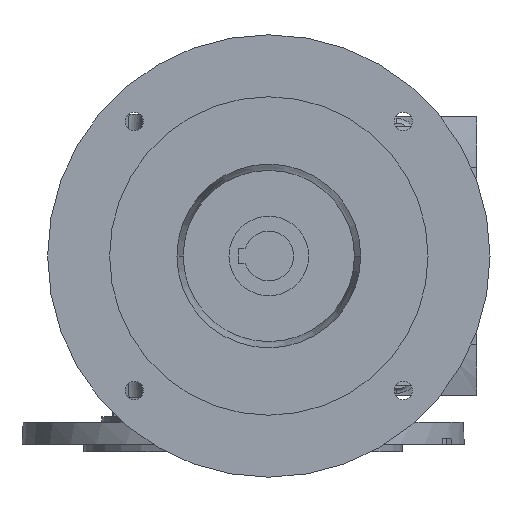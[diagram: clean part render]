
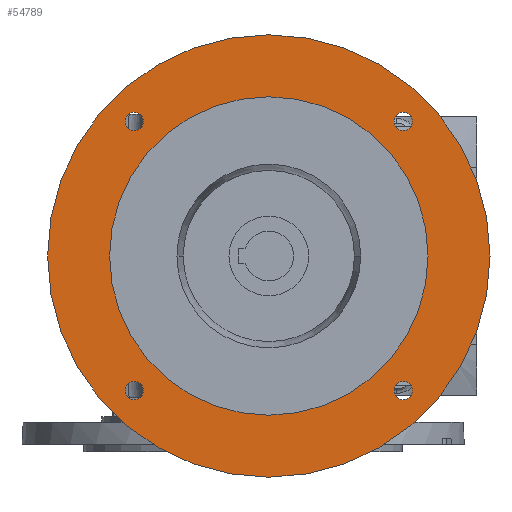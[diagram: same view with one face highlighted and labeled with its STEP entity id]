
A CAD part, left-side view. The second image highlights one B-rep face of the part: STEP entity #54789.
In plain terms, the highlighted planar face has unit normal (-1, 0, 0).
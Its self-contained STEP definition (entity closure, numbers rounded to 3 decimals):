
#54248=CARTESIAN_POINT('',(-147.5,177.514,-76.014));
#54249=DIRECTION('',(1.,0.,0.));
#54250=DIRECTION('',(0.,-1.,0.));
#54251=AXIS2_PLACEMENT_3D('',#54248,#54249,#54250);
#54253=CARTESIAN_POINT('',(-147.5,177.514,-76.014));
#54254=DIRECTION('',(1.,0.,0.));
#54255=DIRECTION('',(0.,1.,0.));
#54256=AXIS2_PLACEMENT_3D('',#54253,#54254,#54255);
#54258=CARTESIAN_POINT('',(-147.5,25.486,-76.014));
#54259=DIRECTION('',(1.,0.,0.));
#54260=DIRECTION('',(0.,-1.,0.));
#54261=AXIS2_PLACEMENT_3D('',#54258,#54259,#54260);
#54263=CARTESIAN_POINT('',(-147.5,25.486,-76.014));
#54264=DIRECTION('',(1.,0.,0.));
#54265=DIRECTION('',(0.,1.,0.));
#54266=AXIS2_PLACEMENT_3D('',#54263,#54264,#54265);
#54268=CARTESIAN_POINT('',(-147.5,25.486,76.014));
#54269=DIRECTION('',(1.,0.,0.));
#54270=DIRECTION('',(0.,-1.,0.));
#54271=AXIS2_PLACEMENT_3D('',#54268,#54269,#54270);
#54273=CARTESIAN_POINT('',(-147.5,25.486,76.014));
#54274=DIRECTION('',(1.,0.,0.));
#54275=DIRECTION('',(0.,1.,0.));
#54276=AXIS2_PLACEMENT_3D('',#54273,#54274,#54275);
#54278=CARTESIAN_POINT('',(-147.5,177.514,76.014));
#54279=DIRECTION('',(1.,0.,0.));
#54280=DIRECTION('',(0.,-1.,0.));
#54281=AXIS2_PLACEMENT_3D('',#54278,#54279,#54280);
#54283=CARTESIAN_POINT('',(-147.5,177.514,76.014));
#54284=DIRECTION('',(1.,0.,0.));
#54285=DIRECTION('',(0.,1.,0.));
#54286=AXIS2_PLACEMENT_3D('',#54283,#54284,#54285);
#54288=CARTESIAN_POINT('',(-147.5,101.5,0.));
#54289=DIRECTION('',(-1.,0.,0.));
#54290=DIRECTION('',(0.,0.,-1.));
#54291=AXIS2_PLACEMENT_3D('',#54288,#54289,#54290);
#54293=CARTESIAN_POINT('',(-147.5,101.5,0.));
#54294=DIRECTION('',(-1.,0.,0.));
#54295=DIRECTION('',(0.,0.,1.));
#54296=AXIS2_PLACEMENT_3D('',#54293,#54294,#54295);
#54298=CARTESIAN_POINT('',(-147.5,101.5,0.));
#54299=DIRECTION('',(1.,0.,0.));
#54300=DIRECTION('',(0.,0.,-1.));
#54301=AXIS2_PLACEMENT_3D('',#54298,#54299,#54300);
#54303=CARTESIAN_POINT('',(-147.5,101.5,0.));
#54304=DIRECTION('',(1.,0.,0.));
#54305=DIRECTION('',(0.,0.,1.));
#54306=AXIS2_PLACEMENT_3D('',#54303,#54304,#54305);
#54504=CARTESIAN_POINT('',(-147.5,101.5,-89.988));
#54505=CARTESIAN_POINT('',(-147.5,101.5,89.988));
#54506=VERTEX_POINT('',#54504);
#54507=VERTEX_POINT('',#54505);
#54508=CARTESIAN_POINT('',(-147.5,101.5,-125.));
#54509=CARTESIAN_POINT('',(-147.5,101.5,125.));
#54510=VERTEX_POINT('',#54508);
#54511=VERTEX_POINT('',#54509);
#54516=CARTESIAN_POINT('',(-147.5,172.389,-76.014));
#54517=CARTESIAN_POINT('',(-147.5,182.639,-76.014));
#54518=VERTEX_POINT('',#54516);
#54519=VERTEX_POINT('',#54517);
#54520=CARTESIAN_POINT('',(-147.5,20.361,-76.014));
#54521=CARTESIAN_POINT('',(-147.5,30.611,-76.014));
#54522=VERTEX_POINT('',#54520);
#54523=VERTEX_POINT('',#54521);
#54524=CARTESIAN_POINT('',(-147.5,20.361,76.014));
#54525=CARTESIAN_POINT('',(-147.5,30.611,76.014));
#54526=VERTEX_POINT('',#54524);
#54527=VERTEX_POINT('',#54525);
#54528=CARTESIAN_POINT('',(-147.5,172.389,76.014));
#54529=CARTESIAN_POINT('',(-147.5,182.639,76.014));
#54530=VERTEX_POINT('',#54528);
#54531=VERTEX_POINT('',#54529);
#54749=CARTESIAN_POINT('',(-147.5,101.5,0.));
#54750=DIRECTION('',(1.,0.,0.));
#54751=DIRECTION('',(0.,0.,-1.));
#54752=AXIS2_PLACEMENT_3D('',#54749,#54750,#54751);
#54753=PLANE('',#54752);
#54755=ORIENTED_EDGE('',*,*,#54754,.F.);
#54757=ORIENTED_EDGE('',*,*,#54756,.F.);
#54758=EDGE_LOOP('',(#54755,#54757));
#54759=FACE_OUTER_BOUND('',#54758,.F.);
#54761=ORIENTED_EDGE('',*,*,#54760,.F.);
#54763=ORIENTED_EDGE('',*,*,#54762,.F.);
#54764=EDGE_LOOP('',(#54761,#54763));
#54765=FACE_BOUND('',#54764,.F.);
#54766=ORIENTED_EDGE('',*,*,#54739,.F.);
#54768=ORIENTED_EDGE('',*,*,#54767,.F.);
#54769=EDGE_LOOP('',(#54766,#54768));
#54770=FACE_BOUND('',#54769,.F.);
#54772=ORIENTED_EDGE('',*,*,#54771,.F.);
#54774=ORIENTED_EDGE('',*,*,#54773,.F.);
#54775=EDGE_LOOP('',(#54772,#54774));
#54776=FACE_BOUND('',#54775,.F.);
#54778=ORIENTED_EDGE('',*,*,#54777,.F.);
#54780=ORIENTED_EDGE('',*,*,#54779,.F.);
#54781=EDGE_LOOP('',(#54778,#54780));
#54782=FACE_BOUND('',#54781,.F.);
#54784=ORIENTED_EDGE('',*,*,#54783,.F.);
#54786=ORIENTED_EDGE('',*,*,#54785,.F.);
#54787=EDGE_LOOP('',(#54784,#54786));
#54788=FACE_BOUND('',#54787,.F.);
#54789=ADVANCED_FACE('',(#54759,#54765,#54770,#54776,#54782,#54788),#54753,.F.);
#54252=CIRCLE('',#54251,5.125);
#54257=CIRCLE('',#54256,5.125);
#54262=CIRCLE('',#54261,5.125);
#54267=CIRCLE('',#54266,5.125);
#54272=CIRCLE('',#54271,5.125);
#54277=CIRCLE('',#54276,5.125);
#54282=CIRCLE('',#54281,5.125);
#54287=CIRCLE('',#54286,5.125);
#54292=CIRCLE('',#54291,125.);
#54297=CIRCLE('',#54296,125.);
#54302=CIRCLE('',#54301,89.988);
#54307=CIRCLE('',#54306,89.988);
#54739=EDGE_CURVE('',#54522,#54523,#54262,.T.);
#54754=EDGE_CURVE('',#54510,#54511,#54292,.T.);
#54756=EDGE_CURVE('',#54511,#54510,#54297,.T.);
#54760=EDGE_CURVE('',#54518,#54519,#54252,.T.);
#54762=EDGE_CURVE('',#54519,#54518,#54257,.T.);
#54767=EDGE_CURVE('',#54523,#54522,#54267,.T.);
#54771=EDGE_CURVE('',#54526,#54527,#54272,.T.);
#54773=EDGE_CURVE('',#54527,#54526,#54277,.T.);
#54777=EDGE_CURVE('',#54530,#54531,#54282,.T.);
#54779=EDGE_CURVE('',#54531,#54530,#54287,.T.);
#54783=EDGE_CURVE('',#54506,#54507,#54302,.T.);
#54785=EDGE_CURVE('',#54507,#54506,#54307,.T.);
